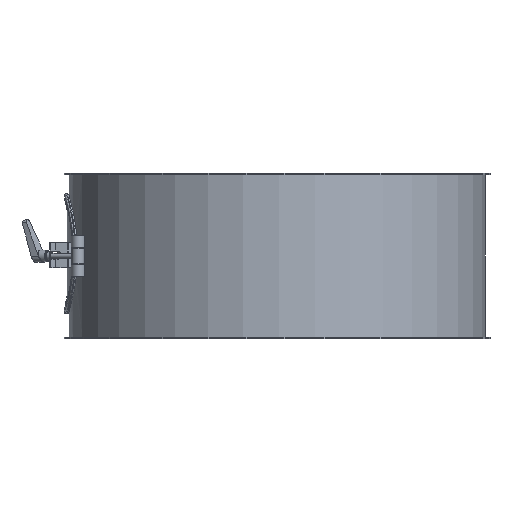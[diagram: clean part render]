
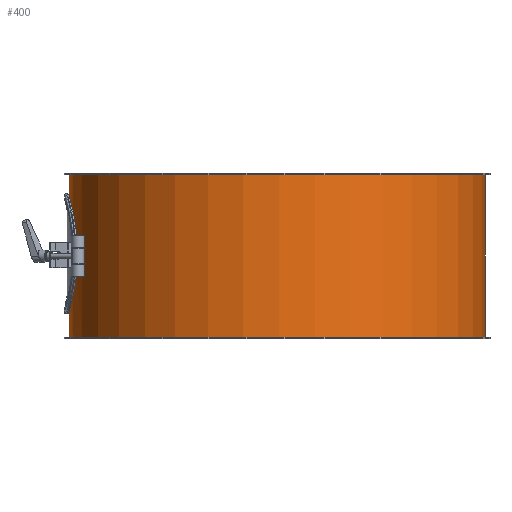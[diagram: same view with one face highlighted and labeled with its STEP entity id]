
A CAD part, front view. The second image highlights one B-rep face of the part: STEP entity #400.
In plain terms, the highlighted cylindrical face has radius 251 mm (diameter 502 mm), a full revolution.
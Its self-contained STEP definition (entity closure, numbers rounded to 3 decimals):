
#185=CARTESIAN_POINT('',(-244.325,-57.5,100.));
#186=VERTEX_POINT('',#185);
#187=CARTESIAN_POINT('',(-244.325,-57.5,100.));
#188=CARTESIAN_POINT('',(-244.325,-57.5,96.376));
#189=CARTESIAN_POINT('',(-244.408,-57.152,92.633));
#190=CARTESIAN_POINT('',(-244.745,-55.69,85.194));
#191=CARTESIAN_POINT('',(-244.999,-54.577,81.5));
#192=CARTESIAN_POINT('',(-245.635,-51.639,74.42));
#193=CARTESIAN_POINT('',(-246.017,-49.812,71.03));
#194=CARTESIAN_POINT('',(-246.833,-45.595,64.763));
#195=CARTESIAN_POINT('',(-247.267,-43.204,61.887));
#196=CARTESIAN_POINT('',(-248.103,-38.113,56.796));
#197=CARTESIAN_POINT('',(-248.534,-35.237,54.406));
#198=CARTESIAN_POINT('',(-249.343,-28.97,50.188));
#199=CARTESIAN_POINT('',(-249.718,-25.58,48.361));
#200=CARTESIAN_POINT('',(-250.343,-18.5,45.423));
#201=CARTESIAN_POINT('',(-250.591,-14.805,44.31));
#202=CARTESIAN_POINT('',(-250.919,-7.367,42.848));
#203=CARTESIAN_POINT('',(-251.0,-3.624,42.5));
#204=CARTESIAN_POINT('',(-251.0,3.624,42.5));
#205=CARTESIAN_POINT('',(-250.919,7.367,42.848));
#206=CARTESIAN_POINT('',(-250.591,14.805,44.31));
#207=CARTESIAN_POINT('',(-250.343,18.5,45.423));
#208=CARTESIAN_POINT('',(-249.718,25.58,48.361));
#209=CARTESIAN_POINT('',(-249.343,28.97,50.188));
#210=CARTESIAN_POINT('',(-248.534,35.237,54.406));
#211=CARTESIAN_POINT('',(-248.103,38.113,56.796));
#212=CARTESIAN_POINT('',(-247.267,43.204,61.887));
#213=CARTESIAN_POINT('',(-246.833,45.595,64.763));
#214=CARTESIAN_POINT('',(-246.017,49.812,71.03));
#215=CARTESIAN_POINT('',(-245.635,51.639,74.42));
#216=CARTESIAN_POINT('',(-244.999,54.577,81.5));
#217=CARTESIAN_POINT('',(-244.745,55.69,85.194));
#218=CARTESIAN_POINT('',(-244.408,57.152,92.633));
#219=CARTESIAN_POINT('',(-244.325,57.5,96.376));
#220=CARTESIAN_POINT('',(-244.325,57.5,103.624));
#221=CARTESIAN_POINT('',(-244.408,57.152,107.367));
#222=CARTESIAN_POINT('',(-244.745,55.69,114.806));
#223=CARTESIAN_POINT('',(-244.999,54.577,118.5));
#224=CARTESIAN_POINT('',(-245.635,51.639,125.58));
#225=CARTESIAN_POINT('',(-246.017,49.812,128.97));
#226=CARTESIAN_POINT('',(-246.833,45.595,135.237));
#227=CARTESIAN_POINT('',(-247.267,43.204,138.113));
#228=CARTESIAN_POINT('',(-248.103,38.113,143.204));
#229=CARTESIAN_POINT('',(-248.534,35.237,145.594));
#230=CARTESIAN_POINT('',(-249.343,28.97,149.812));
#231=CARTESIAN_POINT('',(-249.718,25.58,151.639));
#232=CARTESIAN_POINT('',(-250.343,18.5,154.577));
#233=CARTESIAN_POINT('',(-250.591,14.805,155.69));
#234=CARTESIAN_POINT('',(-250.919,7.367,157.152));
#235=CARTESIAN_POINT('',(-251.0,3.624,157.5));
#236=CARTESIAN_POINT('',(-251.0,-3.624,157.5));
#237=CARTESIAN_POINT('',(-250.919,-7.367,157.152));
#238=CARTESIAN_POINT('',(-250.591,-14.805,155.69));
#239=CARTESIAN_POINT('',(-250.343,-18.5,154.577));
#240=CARTESIAN_POINT('',(-249.718,-25.58,151.639));
#241=CARTESIAN_POINT('',(-249.343,-28.97,149.812));
#242=CARTESIAN_POINT('',(-248.534,-35.237,145.594));
#243=CARTESIAN_POINT('',(-248.103,-38.113,143.204));
#244=CARTESIAN_POINT('',(-247.267,-43.204,138.113));
#245=CARTESIAN_POINT('',(-246.833,-45.595,135.237));
#246=CARTESIAN_POINT('',(-246.017,-49.812,128.97));
#247=CARTESIAN_POINT('',(-245.635,-51.639,125.58));
#248=CARTESIAN_POINT('',(-244.999,-54.577,118.5));
#249=CARTESIAN_POINT('',(-244.745,-55.69,114.806));
#250=CARTESIAN_POINT('',(-244.408,-57.152,107.367));
#251=CARTESIAN_POINT('',(-244.325,-57.5,103.624));
#252=CARTESIAN_POINT('',(-244.325,-57.5,100.));
#253=B_SPLINE_CURVE_WITH_KNOTS('',3,(#187,#188,#189,#190,#191,#192,#193,#194,#195,#196,#197,#198,#199,#200,#201,#202,#203,#204,#205,#206,#207,#208,#209,#210,#211,#212,#213,#214,#215,#216,#217,#218,#219,#220,#221,#222,#223,#224,#225,#226,#227,#228,#229,#230,#231,#232,#233,#234,#235,#236,#237,#238,#239,#240,#241,#242,#243,#244,#245,#246,#247,#248,#249,#250,#251,#252),.UNSPECIFIED.,.T.,.U.,(4,2,2,2,2,2,2,2,2,2,2,2,2,2,2,2,2,2,2,2,2,2,2,2,2,2,2,2,2,2,2,2,4),(0.0,1.087,2.174,3.262,4.349,5.436,6.523,7.61,8.697,9.784,10.871,11.958,13.045,14.133,15.22,16.307,17.394,18.481,19.569,20.656,21.743,22.83,23.917,25.004,26.091,27.178,28.266,29.353,30.44,31.527,32.614,33.701,34.789),.UNSPECIFIED.);
#254=EDGE_CURVE('',#186,#186,#253,.T.);
#295=CARTESIAN_POINT('',(251.0,0.,198.0));
#296=VERTEX_POINT('',#295);
#297=CARTESIAN_POINT('',(0.0,0.0,198.0));
#298=DIRECTION('',(0.0,0.0,-1.0));
#299=DIRECTION('',(-1.0,0.0,0.0));
#300=AXIS2_PLACEMENT_3D('',#297,#298,#299);
#301=CIRCLE('',#300,251.0);
#302=EDGE_CURVE('',#296,#296,#301,.T.);
#343=CARTESIAN_POINT('',(-251.0,0.,2.0));
#344=VERTEX_POINT('',#343);
#345=CARTESIAN_POINT('',(0.0,0.0,2.0));
#346=DIRECTION('',(0.0,0.0,1.0));
#347=DIRECTION('',(-1.0,0.0,0.0));
#348=AXIS2_PLACEMENT_3D('',#345,#346,#347);
#349=CIRCLE('',#348,251.0);
#350=EDGE_CURVE('',#344,#344,#349,.T.);
#386=CARTESIAN_POINT('',(0.0,0.0,0.0));
#387=DIRECTION('',(0.0,0.0,1.0));
#388=DIRECTION('',(-1.0,0.0,0.0));
#389=AXIS2_PLACEMENT_3D('',#386,#387,#388);
#390=CYLINDRICAL_SURFACE('',#389,251.0);
#391=ORIENTED_EDGE('',*,*,#302,.T.);
#392=EDGE_LOOP('',(#391));
#393=FACE_OUTER_BOUND('',#392,.T.);
#394=ORIENTED_EDGE('',*,*,#254,.T.);
#395=EDGE_LOOP('',(#394));
#396=FACE_BOUND('',#395,.T.);
#397=ORIENTED_EDGE('',*,*,#350,.T.);
#398=EDGE_LOOP('',(#397));
#399=FACE_BOUND('',#398,.T.);
#400=ADVANCED_FACE('',(#393,#396,#399),#390,.T.);
